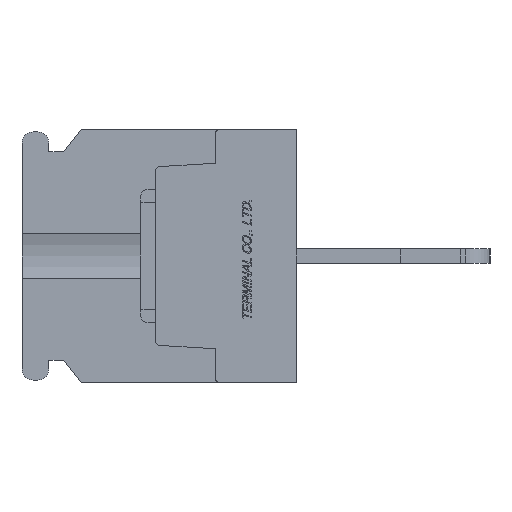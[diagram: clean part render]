
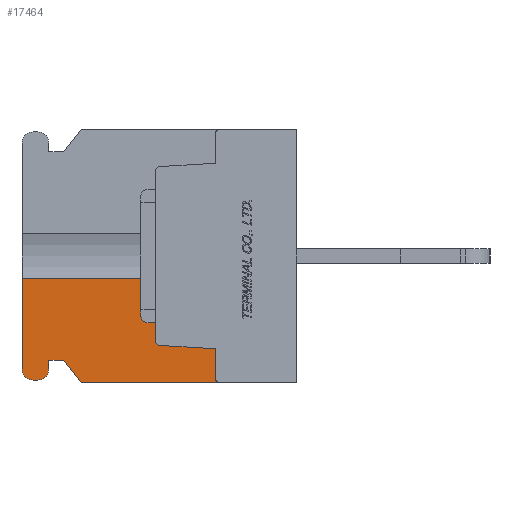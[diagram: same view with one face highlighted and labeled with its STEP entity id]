
A CAD part, left-side view. The second image highlights one B-rep face of the part: STEP entity #17464.
In plain terms, the highlighted planar face has unit normal (-1, 0, 0).
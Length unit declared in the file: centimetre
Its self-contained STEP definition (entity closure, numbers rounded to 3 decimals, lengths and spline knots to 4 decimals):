
#765=CIRCLE('',#29737,0.075);
#766=CIRCLE('',#29738,0.075);
#767=CIRCLE('',#29739,0.03);
#768=CIRCLE('',#29740,0.03);
#1621=VERTEX_POINT('',#24804);
#1622=VERTEX_POINT('',#24805);
#1623=VERTEX_POINT('',#24807);
#1624=VERTEX_POINT('',#24809);
#1625=VERTEX_POINT('',#24811);
#1626=VERTEX_POINT('',#24813);
#1627=VERTEX_POINT('',#24815);
#1628=VERTEX_POINT('',#24817);
#1629=VERTEX_POINT('',#24819);
#1630=VERTEX_POINT('',#24821);
#1631=VERTEX_POINT('',#24823);
#1632=VERTEX_POINT('',#24825);
#1633=VERTEX_POINT('',#24827);
#1634=VERTEX_POINT('',#24829);
#3508=VECTOR('',#19797,1.);
#3509=VECTOR('',#19798,1.);
#3510=VECTOR('',#19799,1.);
#3511=VECTOR('',#19802,1.);
#3512=VECTOR('',#19805,1.);
#3513=VECTOR('',#19806,1.);
#3514=VECTOR('',#19807,1.);
#3515=VECTOR('',#19808,1.);
#3516=VECTOR('',#19811,1.);
#3517=VECTOR('',#19812,1.);
#5456=LINE('',#24803,#3508);
#5457=LINE('',#24806,#3509);
#5458=LINE('',#24808,#3510);
#5459=LINE('',#24812,#3511);
#5460=LINE('',#24816,#3512);
#5461=LINE('',#24818,#3513);
#5462=LINE('',#24820,#3514);
#5463=LINE('',#24822,#3515);
#5464=LINE('',#24826,#3516);
#5465=LINE('',#24828,#3517);
#7570=EDGE_CURVE('',#1621,#1622,#5456,.T.);
#7571=EDGE_CURVE('',#1621,#1623,#5457,.T.);
#7572=EDGE_CURVE('',#1624,#1623,#5458,.T.);
#7573=EDGE_CURVE('',#1625,#1624,#765,.T.);
#7574=EDGE_CURVE('',#1626,#1625,#5459,.T.);
#7575=EDGE_CURVE('',#1627,#1626,#766,.T.);
#7576=EDGE_CURVE('',#1628,#1627,#5460,.T.);
#7577=EDGE_CURVE('',#1629,#1628,#5461,.T.);
#7578=EDGE_CURVE('',#1630,#1629,#5462,.T.);
#7579=EDGE_CURVE('',#1631,#1630,#5463,.T.);
#7580=EDGE_CURVE('',#1632,#1631,#767,.T.);
#7581=EDGE_CURVE('',#1633,#1632,#5464,.T.);
#7582=EDGE_CURVE('',#1634,#1633,#5465,.T.);
#7583=EDGE_CURVE('',#1622,#1634,#768,.T.);
#10956=ORIENTED_EDGE('',*,*,#7570,.F.);
#10957=ORIENTED_EDGE('',*,*,#7571,.T.);
#10958=ORIENTED_EDGE('',*,*,#7572,.F.);
#10959=ORIENTED_EDGE('',*,*,#7573,.F.);
#10960=ORIENTED_EDGE('',*,*,#7574,.F.);
#10961=ORIENTED_EDGE('',*,*,#7575,.F.);
#10962=ORIENTED_EDGE('',*,*,#7576,.F.);
#10963=ORIENTED_EDGE('',*,*,#7577,.F.);
#10964=ORIENTED_EDGE('',*,*,#7578,.F.);
#10965=ORIENTED_EDGE('',*,*,#7579,.F.);
#10966=ORIENTED_EDGE('',*,*,#7580,.F.);
#10967=ORIENTED_EDGE('',*,*,#7581,.F.);
#10968=ORIENTED_EDGE('',*,*,#7582,.F.);
#10969=ORIENTED_EDGE('',*,*,#7583,.F.);
#15268=EDGE_LOOP('',(#10956,#10957,#10958,#10959,#10960,#10961,#10962,#10963,
#10964,#10965,#10966,#10967,#10968,#10969));
#16380=FACE_BOUND('',#15268,.T.);
#17464=ADVANCED_FACE('',(#16380),#18379,.F.);
#18379=PLANE('',#29736);
#19796=DIRECTION('',(1.,0.,0.));
#19797=DIRECTION('',(0.,0.,-1.));
#19798=DIRECTION('',(0.,1.,0.));
#19799=DIRECTION('',(0.,0.,1.));
#19800=DIRECTION('',(1.,0.,0.));
#19801=DIRECTION('',(0.,0.,-0.075));
#19802=DIRECTION('',(0.,1.,0.));
#19803=DIRECTION('',(1.,0.,0.));
#19804=DIRECTION('',(0.,0.,-0.075));
#19805=DIRECTION('',(0.,0.,-1.));
#19806=DIRECTION('',(0.,1.,0.));
#19807=DIRECTION('',(0.,0.625,0.781));
#19808=DIRECTION('',(0.,1.,0.));
#19809=DIRECTION('',(-1.,0.,0.));
#19810=DIRECTION('',(0.,0.,0.03));
#19811=DIRECTION('',(0.,0.,-1.));
#19812=DIRECTION('',(0.,-0.998,-0.061));
#19813=DIRECTION('',(-1.,0.,0.));
#19814=DIRECTION('',(0.,0.,0.03));
#24802=CARTESIAN_POINT('',(-1.1,0.9454,0.));
#24803=CARTESIAN_POINT('',(-1.1,0.95,0.5718));
#24804=CARTESIAN_POINT('',(-1.1,0.95,-0.1521));
#24805=CARTESIAN_POINT('',(-1.1,0.95,-0.5718));
#24806=CARTESIAN_POINT('',(-1.1,1.4,-0.1521));
#24807=CARTESIAN_POINT('',(-1.1,1.85,-0.1521));
#24808=CARTESIAN_POINT('',(-1.1,1.85,-0.76));
#24809=CARTESIAN_POINT('',(-1.1,1.85,-0.76));
#24810=CARTESIAN_POINT('',(-1.1,1.775,-0.76));
#24811=CARTESIAN_POINT('',(-1.1,1.775,-0.835));
#24812=CARTESIAN_POINT('',(-1.1,1.745,-0.835));
#24813=CARTESIAN_POINT('',(-1.1,1.745,-0.835));
#24814=CARTESIAN_POINT('',(-1.1,1.745,-0.76));
#24815=CARTESIAN_POINT('',(-1.1,1.67,-0.76));
#24816=CARTESIAN_POINT('',(-1.1,1.67,-0.7));
#24817=CARTESIAN_POINT('',(-1.1,1.67,-0.7));
#24818=CARTESIAN_POINT('',(-1.1,1.57,-0.7));
#24819=CARTESIAN_POINT('',(-1.1,1.57,-0.7));
#24820=CARTESIAN_POINT('',(-1.1,1.45,-0.85));
#24821=CARTESIAN_POINT('',(-1.1,1.45,-0.85));
#24822=CARTESIAN_POINT('',(-1.1,0.,-0.85));
#24823=CARTESIAN_POINT('',(-1.1,0.52,-0.85));
#24824=CARTESIAN_POINT('',(-1.1,0.52,-0.82));
#24825=CARTESIAN_POINT('',(-1.1,0.55,-0.82));
#24826=CARTESIAN_POINT('',(-1.1,0.55,-0.6245));
#24827=CARTESIAN_POINT('',(-1.1,0.55,-0.6245));
#24828=CARTESIAN_POINT('',(-1.1,0.9218,-0.6017));
#24829=CARTESIAN_POINT('',(-1.1,0.9218,-0.6017));
#24830=CARTESIAN_POINT('',(-1.1,0.92,-0.5718));
#29736=AXIS2_PLACEMENT_3D('',#24802,#19796,$);
#29737=AXIS2_PLACEMENT_3D('',#24810,#19800,#19801);
#29738=AXIS2_PLACEMENT_3D('',#24814,#19803,#19804);
#29739=AXIS2_PLACEMENT_3D('',#24824,#19809,#19810);
#29740=AXIS2_PLACEMENT_3D('',#24830,#19813,#19814);
